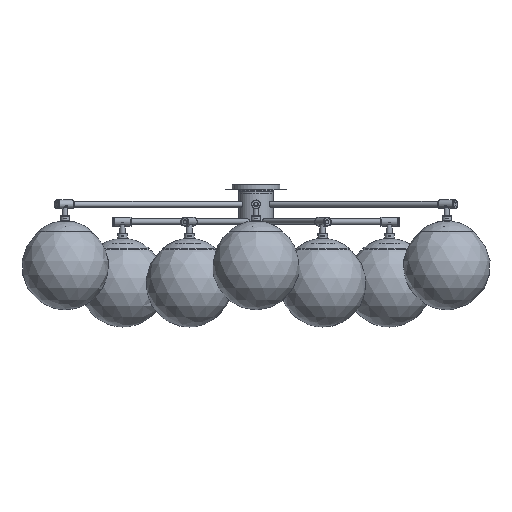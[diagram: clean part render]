
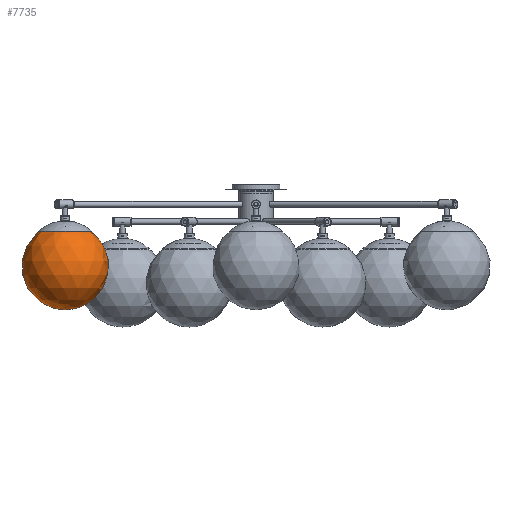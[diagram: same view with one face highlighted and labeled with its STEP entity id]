
A CAD part, left-side view. The second image highlights one B-rep face of the part: STEP entity #7735.
In plain terms, the highlighted free-form (B-spline) face has degree [2, 2] with [5, 9] control points.
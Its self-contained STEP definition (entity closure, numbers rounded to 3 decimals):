
#173=(
BOUNDED_SURFACE()
B_SPLINE_SURFACE(2,2,((#14063,#14064,#14065,#14066,#14067,#14068,#14069,
#14070,#14071),(#14072,#14073,#14074,#14075,#14076,#14077,#14078,#14079,
#14080),(#14081,#14082,#14083,#14084,#14085,#14086,#14087,#14088,#14089),
(#14090,#14091,#14092,#14093,#14094,#14095,#14096,#14097,#14098),(#14099,
#14100,#14101,#14102,#14103,#14104,#14105,#14106,#14107)),.UNSPECIFIED.,
 .F.,.T.,.F.)
B_SPLINE_SURFACE_WITH_KNOTS((3,2,3),(3,2,2,2,3),(-1.156,0.208,
1.572),(-3.142,-1.571,0.,1.571,
3.142),.UNSPECIFIED.)
GEOMETRIC_REPRESENTATION_ITEM()
RATIONAL_B_SPLINE_SURFACE(((1.,0.707,1.,0.707,1.,
0.707,1.,0.707,1.),(0.776,0.549,
0.776,0.549,0.776,0.549,
0.776,0.549,0.776),(1.,0.707,
1.,0.707,1.,0.707,1.,0.707,1.),(0.776,
0.549,0.776,0.549,0.776,
0.549,0.776,0.549,0.776),
(1.,0.707,1.,0.707,1.,0.707,1.,0.707,
1.)))
REPRESENTATION_ITEM('')
SURFACE()
);
#1085=FACE_OUTER_BOUND('',#1788,.T.);
#1788=EDGE_LOOP('',(#6203,#6204,#6205));
#3195=CIRCLE('',#8808,40.391);
#3197=CIRCLE('',#8810,100.);
#3857=VERTEX_POINT('',#14060);
#3858=VERTEX_POINT('',#14108);
#4686=EDGE_CURVE('',#3857,#3857,#3195,.T.);
#4688=EDGE_CURVE('',#3858,#3857,#3197,.T.);
#6203=ORIENTED_EDGE('',*,*,#4688,.T.);
#6204=ORIENTED_EDGE('',*,*,#4686,.T.);
#6205=ORIENTED_EDGE('',*,*,#4688,.F.);
#7735=ADVANCED_FACE('',(#1085),#173,.F.);
#8808=AXIS2_PLACEMENT_3D('',#14061,#10908,#10909);
#8810=AXIS2_PLACEMENT_3D('',#14109,#10912,#10913);
#10908=DIRECTION('center_axis',(0.,0.,
-1.));
#10909=DIRECTION('ref_axis',(0.866,0.5,0.));
#10912=DIRECTION('center_axis',(-0.866,-0.5,0.));
#10913=DIRECTION('ref_axis',(0.5,-0.866,0.));
#14060=CARTESIAN_POINT('',(-233.304,404.095,231.529));
#14061=CARTESIAN_POINT('Origin',(-253.5,439.075,231.529));
#14063=CARTESIAN_POINT('Ctrl Pts',(-233.304,404.095,231.529));
#14064=CARTESIAN_POINT('Ctrl Pts',(-268.284,383.899,231.529));
#14065=CARTESIAN_POINT('Ctrl Pts',(-288.48,418.879,231.529));
#14066=CARTESIAN_POINT('Ctrl Pts',(-308.676,453.859,231.529));
#14067=CARTESIAN_POINT('Ctrl Pts',(-273.696,474.055,231.529));
#14068=CARTESIAN_POINT('Ctrl Pts',(-238.716,494.25,231.529));
#14069=CARTESIAN_POINT('Ctrl Pts',(-218.52,459.271,231.529));
#14070=CARTESIAN_POINT('Ctrl Pts',(-198.324,424.291,231.529));
#14071=CARTESIAN_POINT('Ctrl Pts',(-233.304,404.095,231.529));
#14072=CARTESIAN_POINT('Ctrl Pts',(-196.143,339.729,198.82));
#14073=CARTESIAN_POINT('Ctrl Pts',(-295.489,282.372,198.82));
#14074=CARTESIAN_POINT('Ctrl Pts',(-352.846,381.718,198.82));
#14075=CARTESIAN_POINT('Ctrl Pts',(-410.203,481.063,198.82));
#14076=CARTESIAN_POINT('Ctrl Pts',(-310.857,538.421,198.82));
#14077=CARTESIAN_POINT('Ctrl Pts',(-211.511,595.778,198.82));
#14078=CARTESIAN_POINT('Ctrl Pts',(-154.154,496.432,198.82));
#14079=CARTESIAN_POINT('Ctrl Pts',(-96.797,397.086,198.82));
#14080=CARTESIAN_POINT('Ctrl Pts',(-196.143,339.729,198.82));
#14081=CARTESIAN_POINT('Ctrl Pts',(-204.521,354.24,119.365));
#14082=CARTESIAN_POINT('Ctrl Pts',(-289.355,305.261,119.365));
#14083=CARTESIAN_POINT('Ctrl Pts',(-338.335,390.096,119.365));
#14084=CARTESIAN_POINT('Ctrl Pts',(-387.314,474.93,119.365));
#14085=CARTESIAN_POINT('Ctrl Pts',(-302.479,523.909,119.365));
#14086=CARTESIAN_POINT('Ctrl Pts',(-217.645,572.889,119.365));
#14087=CARTESIAN_POINT('Ctrl Pts',(-168.665,488.054,119.365));
#14088=CARTESIAN_POINT('Ctrl Pts',(-119.686,403.22,119.365));
#14089=CARTESIAN_POINT('Ctrl Pts',(-204.521,354.24,119.365));
#14090=CARTESIAN_POINT('Ctrl Pts',(-212.899,368.752,39.91));
#14091=CARTESIAN_POINT('Ctrl Pts',(-283.222,328.15,39.91));
#14092=CARTESIAN_POINT('Ctrl Pts',(-323.823,398.474,39.91));
#14093=CARTESIAN_POINT('Ctrl Pts',(-364.425,468.797,39.91));
#14094=CARTESIAN_POINT('Ctrl Pts',(-294.101,509.398,39.91));
#14095=CARTESIAN_POINT('Ctrl Pts',(-223.778,549.999,39.91));
#14096=CARTESIAN_POINT('Ctrl Pts',(-183.177,479.676,39.91));
#14097=CARTESIAN_POINT('Ctrl Pts',(-142.575,409.353,39.91));
#14098=CARTESIAN_POINT('Ctrl Pts',(-212.899,368.752,39.91));
#14099=CARTESIAN_POINT('Ctrl Pts',(-253.5,439.075,40.));
#14100=CARTESIAN_POINT('Ctrl Pts',(-253.5,439.075,40.));
#14101=CARTESIAN_POINT('Ctrl Pts',(-253.5,439.075,40.));
#14102=CARTESIAN_POINT('Ctrl Pts',(-253.5,439.075,40.));
#14103=CARTESIAN_POINT('Ctrl Pts',(-253.5,439.075,40.));
#14104=CARTESIAN_POINT('Ctrl Pts',(-253.5,439.075,40.));
#14105=CARTESIAN_POINT('Ctrl Pts',(-253.5,439.075,40.));
#14106=CARTESIAN_POINT('Ctrl Pts',(-253.5,439.075,40.));
#14107=CARTESIAN_POINT('Ctrl Pts',(-253.5,439.075,40.));
#14108=CARTESIAN_POINT('',(-253.5,439.075,40.));
#14109=CARTESIAN_POINT('Origin',(-253.445,438.979,140.));
